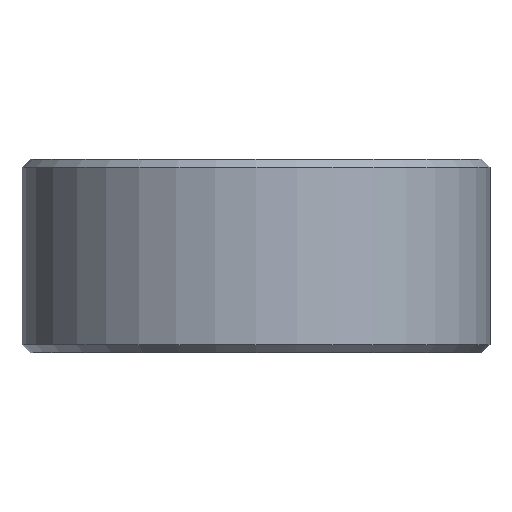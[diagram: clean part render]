
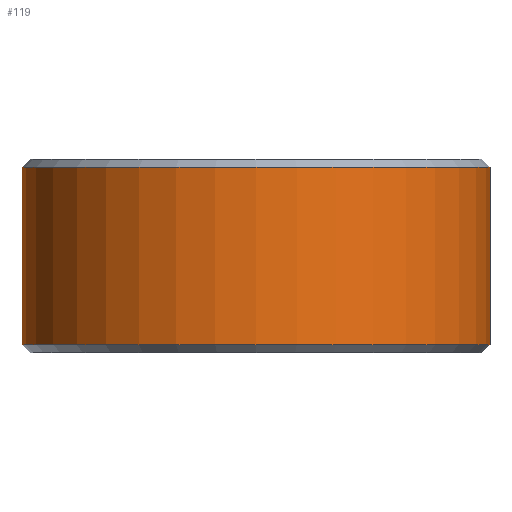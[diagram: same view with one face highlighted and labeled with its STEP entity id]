
A CAD part, front view. The second image highlights one B-rep face of the part: STEP entity #119.
In plain terms, the highlighted cylindrical face has radius 14.5 mm (diameter 29 mm), a full revolution.
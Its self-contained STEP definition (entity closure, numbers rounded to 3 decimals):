
#20=CYLINDRICAL_SURFACE('',#148,14.5);
#27=FACE_OUTER_BOUND('',#37,.T.);
#37=EDGE_LOOP('',(#101,#102,#103,#104));
#43=LINE('',#219,#49);
#49=VECTOR('',#187,14.5);
#57=CIRCLE('',#147,14.5);
#58=CIRCLE('',#149,14.5);
#65=VERTEX_POINT('',#213);
#66=VERTEX_POINT('',#217);
#77=EDGE_CURVE('',#65,#65,#57,.T.);
#78=EDGE_CURVE('',#66,#66,#58,.T.);
#79=EDGE_CURVE('',#66,#65,#43,.T.);
#101=ORIENTED_EDGE('',*,*,#78,.F.);
#102=ORIENTED_EDGE('',*,*,#79,.T.);
#103=ORIENTED_EDGE('',*,*,#77,.F.);
#104=ORIENTED_EDGE('',*,*,#79,.F.);
#119=ADVANCED_FACE('',(#27),#20,.T.);
#147=AXIS2_PLACEMENT_3D('',#215,#181,#182);
#148=AXIS2_PLACEMENT_3D('',#216,#183,#184);
#149=AXIS2_PLACEMENT_3D('',#218,#185,#186);
#181=DIRECTION('center_axis',(0.,0.,-1.));
#182=DIRECTION('ref_axis',(-1.,0.,0.));
#183=DIRECTION('center_axis',(0.,0.,1.));
#184=DIRECTION('ref_axis',(-1.,0.,0.));
#185=DIRECTION('center_axis',(0.,0.,1.));
#186=DIRECTION('ref_axis',(-1.,0.,0.));
#187=DIRECTION('',(0.,0.,-1.));
#213=CARTESIAN_POINT('',(14.5,0.,0.5));
#215=CARTESIAN_POINT('Origin',(0.,0.,0.5));
#216=CARTESIAN_POINT('Origin',(0.,0.,0.));
#217=CARTESIAN_POINT('',(14.5,0.,11.5));
#218=CARTESIAN_POINT('Origin',(0.,0.,11.5));
#219=CARTESIAN_POINT('',(14.5,0.,0.));
